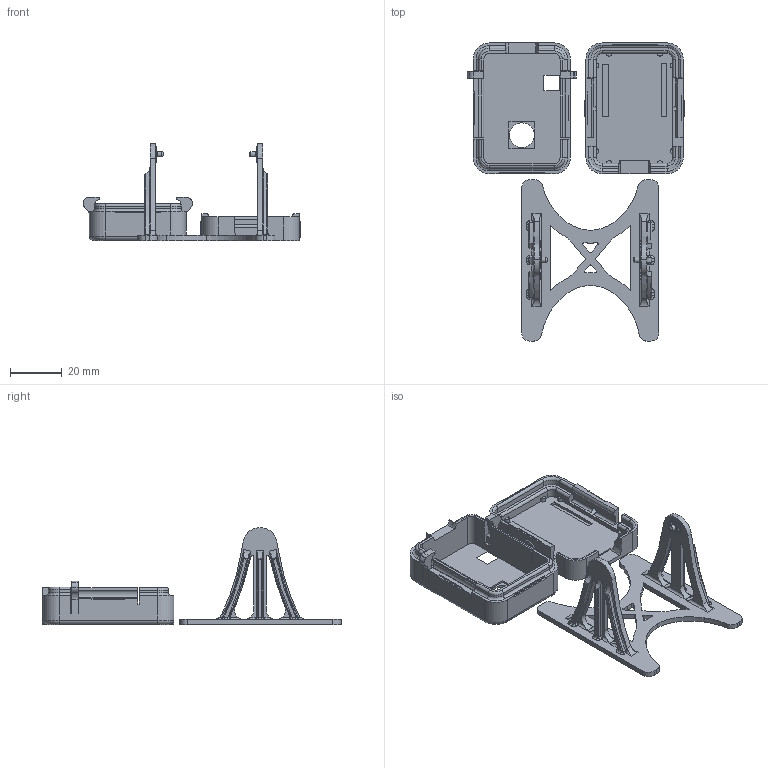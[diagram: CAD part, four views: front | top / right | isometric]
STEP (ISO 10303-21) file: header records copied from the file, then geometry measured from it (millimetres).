
FILE_DESCRIPTION(/* description */ ('STEP AP214'),/* implementation_level */ '2;1');
FILE_NAME(/* name */ '613117b3212e6b1839662b5c',/* time_stamp */ '2021-09-02T18:28:06+00:00',/* author */ (''),/* organization */ (''),/* preprocessor_version */ 'ST-DEVELOPER v18.1',/* originating_system */ ' ',/* authorisation */ ' ');
FILE_SCHEMA (('AUTOMOTIVE_DESIGN {1 0 10303 214 3 1 1}'));
Length unit declared in the file: metre
Products named in the file (3): Bottom; Top; Base
Bounding box: 83.7 x 114.79 x 37.37 mm (x, y, z)
Volume: 21443.6 mm3; surface area: 21344.9 mm2
Topology: 3 solids, 3 shells, 906 faces, 2508 edges, 1599 vertices
Faces by surface type: plane 515, cylinder 279, bspline 76, torus 34, cone 2
Full cylindrical faces by diameter (mm): 2 x2, 2.2 x2, 3.175 x2, 6.35 x2, 9.503 x1
Entity records: 30352 total; most frequent: CARTESIAN_POINT 7123, ORIENTED_EDGE 4948, DIRECTION 4930, EDGE_CURVE 2474, AXIS2_PLACEMENT_3D 1879, VERTEX_POINT 1594, LINE 1172, VECTOR 1172
